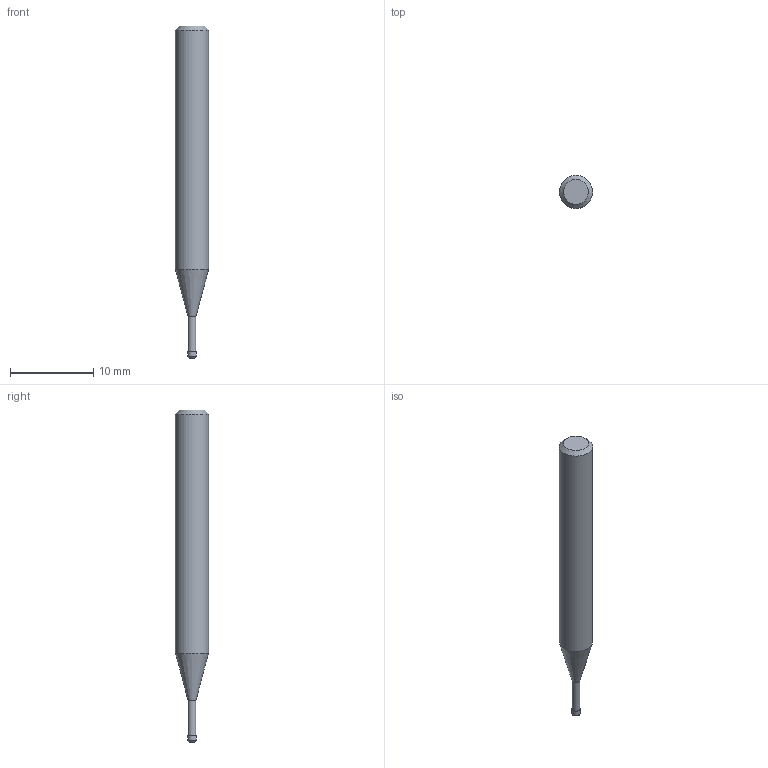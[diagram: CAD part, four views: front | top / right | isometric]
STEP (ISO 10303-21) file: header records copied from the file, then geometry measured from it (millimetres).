
FILE_DESCRIPTION((''),'2;1');
FILE_NAME('C:\Users\nsx150\AppData\Local\Temp\Mastercam 2021\80JYEHYUML\TEMP.step','2022-03-29T14:36:18',(''),(''),'STEP Write','Mastercam 2021 ... CNC Software, Inc.','');
FILE_SCHEMA(('AUTOMOTIVE_DESIGN'));
Length unit declared in the file: millimetre
Products named in the file (1): None
Bounding box: 4 x 4 x 40 mm (x, y, z)
Volume: 401.3 mm3; surface area: 439.7 mm2
Topology: 2 solids, 2 shells, 10 faces, 14 edges, 8 vertices
Faces by surface type: plane 4, cylinder 3, cone 2, torus 1
Full cylindrical faces by diameter (mm): 0.95 x1, 1 x1, 4 x1
Entity records: 232 total; most frequent: DIRECTION 40, CARTESIAN_POINT 28, AXIS2_PLACEMENT_3D 20, ORIENTED_EDGE 16, EDGE_LOOP 16, STYLED_ITEM 13, ADVANCED_FACE 10, FACE_BOUND 10
